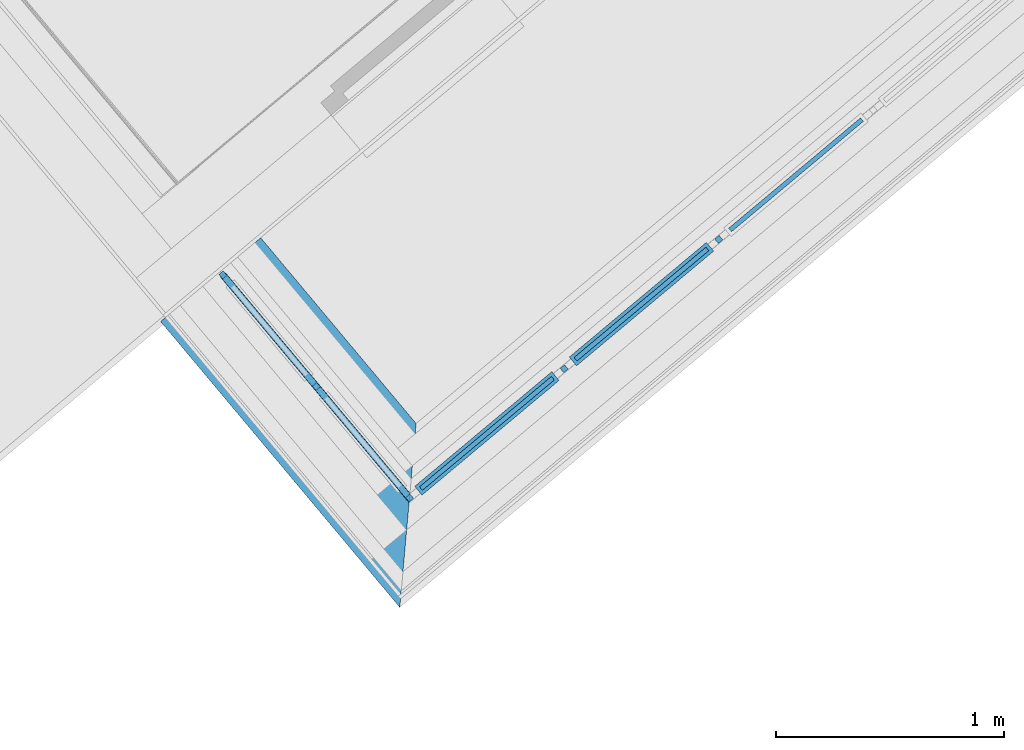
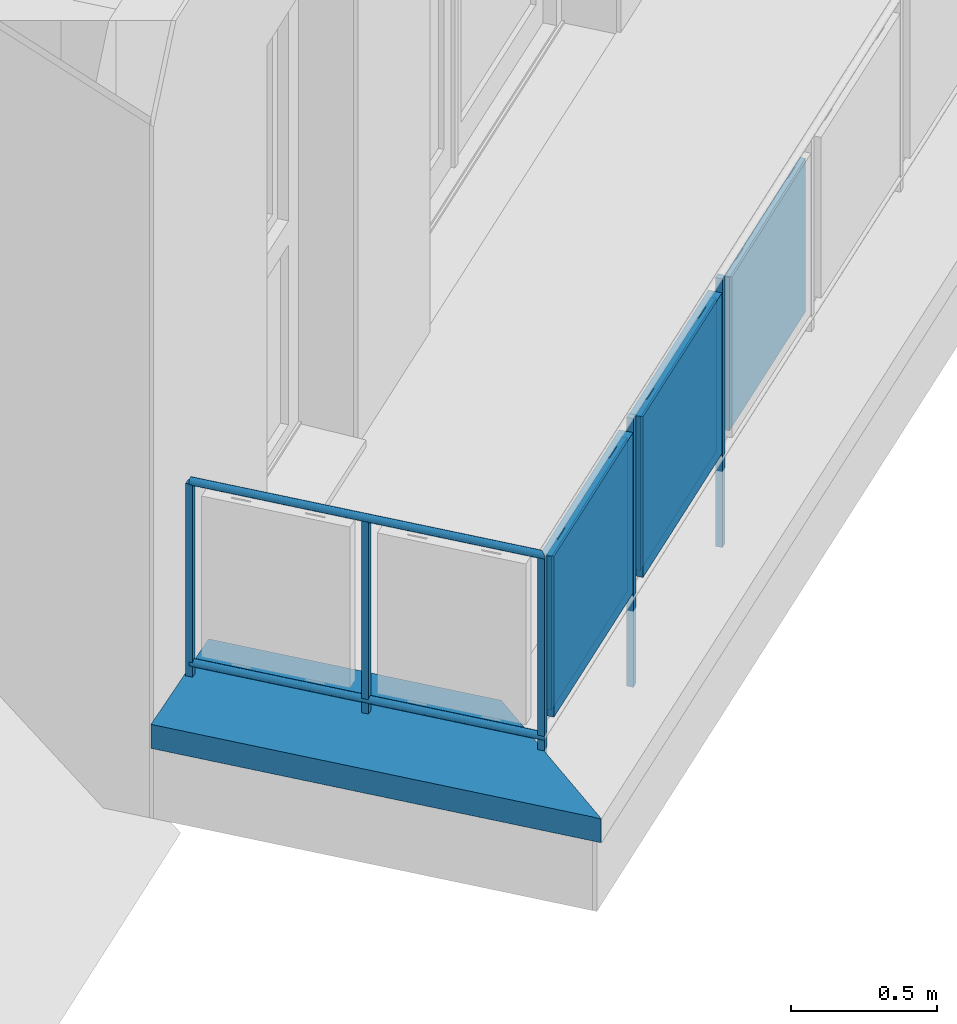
# One storey, part 30 of 47: 13 building element parts, 2 elements without a shape of their own.
"""IFC4 building model written with IfcOpenShell, lengths in metres."""

import ifcopenshell
import ifcopenshell.guid

model = None  # the IFC model being written
_history = None  # IfcOwnerHistory: only IFC2X3 demands one
_inside = {}  # id of a spatial element -> (the spatial element, [elements in it])
_under = {}  # id of a project, library or spatial element -> (it, [spatial elements below it])
_declared = {}  # id of a project -> (the project, [libraries it declares])
_typed = {}  # id of a type object -> (the type object, [elements of that type])
_made_of = {}  # id of a material, layer set ... -> (it, [elements and type objects made of it])


def new_model(schema):
    """Start an empty IFC model of exactly this schema.

    Asked for "IFC4X3", IfcOpenShell would pick the latest addendum, in which some entities
    have other attributes; the version numbers below select the first issue.
    IFC2X3 requires an IfcOwnerHistory on every rooted entity: one is made here for all.
    """
    global model, _history
    if schema == "IFC4X3":
        model = ifcopenshell.file(schema_version=(4, 3, 0, 0))
    else:
        model = ifcopenshell.file(schema=schema)
    _inside.clear()
    _under.clear()
    _declared.clear()
    _typed.clear()
    _made_of.clear()
    _history = None
    if model.schema == "IFC2X3":
        org = make("IfcOrganization", Name="unknown")
        user = make(
            "IfcPersonAndOrganization",
            ThePerson=make("IfcPerson", FamilyName="unknown"),
            TheOrganization=org,
        )
        app = make(
            "IfcApplication",
            ApplicationDeveloper=org,
            Version="unknown",
            ApplicationFullName="unknown",
            ApplicationIdentifier="unknown",
        )
        _history = make(
            "IfcOwnerHistory",
            OwningUser=user,
            OwningApplication=app,
            ChangeAction="ADDED",
            CreationDate=0,
        )
    return model


def make(cls, **values):
    """One entity of the class cls with the attributes given. An attribute that is None is left unset."""
    return model.create_entity(
        cls, **{name: value for name, value in values.items() if value is not None}
    )


def entity(cls, *values):
    """Any entity or typed value of the class cls, its attributes in the order of the schema. None: left unset."""
    e = model.create_entity(cls)
    for i, value in enumerate(values):
        if value is not None:
            e[i] = value
    return e


def rooted(cls, **values):
    """An entity with a GlobalId (a new one), such as an element, a storey or a relation."""
    return make(cls, GlobalId=ifcopenshell.guid.new(), OwnerHistory=_history, **values)


def si_unit(unit_type, name, prefix=None):
    """IfcSIUnit, for example si_unit("LENGTHUNIT", "METRE", prefix="MILLI")."""
    return make("IfcSIUnit", UnitType=unit_type, Prefix=prefix, Name=name)


def converted_unit(unit_type, name, factor, base, dimensions=None, offset=None):
    """IfcConversionBasedUnit, such as the inch: factor (a typed value) times the base unit."""
    return make(
        "IfcConversionBasedUnit"
        if offset is None
        else "IfcConversionBasedUnitWithOffset",
        ConversionOffset=offset,
        Dimensions=None
        if dimensions is None
        else entity("IfcDimensionalExponents", *dimensions),
        UnitType=unit_type,
        Name=name,
        ConversionFactor=make(
            "IfcMeasureWithUnit", ValueComponent=factor, UnitComponent=base
        ),
    )


def derived_unit(unit_type, elements):
    """IfcDerivedUnit: a product of units, each with its exponent."""
    return make(
        "IfcDerivedUnit",
        Elements=[
            make("IfcDerivedUnitElement", Unit=unit, Exponent=power)
            for unit, power in elements
        ],
        UnitType=unit_type,
    )


def assignment(units):
    """IfcUnitAssignment: the units of a project."""
    return None if units is None else make("IfcUnitAssignment", Units=units)


def point(xyz):
    """IfcCartesianPoint."""
    return None if xyz is None else make("IfcCartesianPoint", Coordinates=xyz)


def direction(xyz):
    """IfcDirection."""
    return None if xyz is None else make("IfcDirection", DirectionRatios=xyz)


def frame(location, z_axis=None, x_axis=None):
    """IfcAxis2Placement3D, a coordinate frame: its origin and axes. An axis left out is left unset."""
    return make(
        "IfcAxis2Placement3D",
        Location=point(location),
        Axis=direction(z_axis),
        RefDirection=direction(x_axis),
    )


def origin_with_axes():
    """The frame at (0, 0, 0) with the z axis (0, 0, 1) and the x axis (1, 0, 0) written out."""
    return frame((0.0, 0.0, 0.0), z_axis=(0.0, 0.0, 1.0), x_axis=(1.0, 0.0, 0.0))


def place(relative_to, where):
    """IfcLocalPlacement: puts the frame where relative to a parent placement (None: the world)."""
    return make(
        "IfcLocalPlacement", PlacementRelTo=relative_to, RelativePlacement=where
    )


def context(
    kind, dimensions, precision=None, world=None, true_north=None, identifier=None
):
    """IfcGeometricRepresentationContext, for example the 3D "Model" context."""
    return make(
        "IfcGeometricRepresentationContext",
        ContextIdentifier=identifier,
        ContextType=kind,
        CoordinateSpaceDimension=dimensions,
        Precision=precision,
        WorldCoordinateSystem=world,
        TrueNorth=true_north,
    )


def subcontext(parent, identifier, kind, view, scale=None):
    """IfcGeometricRepresentationSubContext, for example "Body" below "Model"."""
    return make(
        "IfcGeometricRepresentationSubContext",
        ContextIdentifier=identifier,
        ContextType=kind,
        ParentContext=parent,
        TargetScale=scale,
        TargetView=view,
    )


def project(units=None, contexts=None):
    """IfcProject with its units and contexts."""
    return rooted(
        "IfcProject",
        Name="project",
        RepresentationContexts=contexts,
        UnitsInContext=assignment(units),
    )


def spatial(cls, under=None, at=None, **own):
    """A site, building, storey or space (cls), placed at a placement, below another one or the project."""
    s = rooted(cls, ObjectPlacement=at, **own)
    if under is not None:
        _under.setdefault(under.id(), (under, []))[1].append(s)
    return s


def point_list(points):
    """IfcCartesianPointList2D or 3D."""
    cls = (
        "IfcCartesianPointList2D" if len(points[0]) == 2 else "IfcCartesianPointList3D"
    )
    return make(cls, CoordList=points)


def polygons(points, faces, closed=None, point_numbers=None):
    """IfcPolygonalFaceSet: a face is its outer loop, then its inner loops; points numbered from 1."""
    made = []
    for loops in faces:
        if len(loops) == 1:
            made.append(make("IfcIndexedPolygonalFace", CoordIndex=loops[0]))
        else:
            made.append(
                make(
                    "IfcIndexedPolygonalFaceWithVoids",
                    CoordIndex=loops[0],
                    InnerCoordIndices=loops[1:],
                )
            )
    return make(
        "IfcPolygonalFaceSet",
        Coordinates=point_list(points),
        Closed=closed,
        Faces=made,
        PnIndex=point_numbers,
    )


def shape(context_of_items, identifier, shape_type, items):
    """IfcShapeRepresentation: the items that make up one representation, for example the "Body"."""
    return make(
        "IfcShapeRepresentation",
        ContextOfItems=context_of_items,
        RepresentationIdentifier=identifier,
        RepresentationType=shape_type,
        Items=items,
    )


def material(Name=None, Category=None):
    """IfcMaterial."""
    return make("IfcMaterial", Name=Name, Category=Category)


def made_of(thing, what):
    """Note that an element or type object is made of a material, layer set ...; save() writes the relation."""
    if what is not None:
        _made_of.setdefault(what.id(), (what, []))[1].append(thing)
    return thing


def type_object(cls, material=None, **own):
    """A type object (cls), such as IfcWallType, which elements share."""
    return made_of(rooted(cls, **own), material)


def element(
    cls,
    number,
    at=None,
    inside=None,
    cuts=None,
    type_object=None,
    material=None,
    context=None,
    identifier="Body",
    shape_type=None,
    held_by="IfcProductDefinitionShape",
    body=None,
    shapes=None,
    **own,
):
    """One element of the class cls, such as IfcWall. Its Tag is "e" and its number.

    at: its placement. inside: the storey or other place that contains it. cuts: it is an
    opening in that element (IfcRelVoidsElement). A single representation is given by context,
    identifier, shape_type and body (its items); several are given by shapes. held_by: the class
    of the entity that holds the representations. save() writes the other relations.
    """
    e = rooted(cls, Tag="e%d" % number, ObjectPlacement=at, **own)
    if body is not None:
        shapes = [shape(context, identifier, shape_type, body)]
    if shapes is not None:
        e.Representation = make(held_by, Representations=shapes)
    if inside is not None:
        _inside.setdefault(inside.id(), (inside, []))[1].append(e)
    if cuts is not None:
        rooted(
            "IfcRelVoidsElement", RelatingBuildingElement=cuts, RelatedOpeningElement=e
        )
    if type_object is not None:
        _typed.setdefault(type_object.id(), (type_object, []))[1].append(e)
    return made_of(e, material)


def aggregate(whole, parts):
    """IfcRelAggregates: a whole, such as a stair, and the parts it consists of."""
    return rooted("IfcRelAggregates", RelatingObject=whole, RelatedObjects=parts)


def save(model, path):
    """Write the relations noted so far, then the file.

    IfcRelAggregates (storeys below a building ...), IfcRelContainedInSpatialStructure (elements
    in a storey), IfcRelDefinesByType, IfcRelAssociatesMaterial and IfcRelDeclares: one each for
    every whole, place, type object, material and project.
    """
    for whole, parts in _under.values():
        aggregate(whole, parts)
    for where, things in _inside.values():
        rooted(
            "IfcRelContainedInSpatialStructure",
            RelatedElements=things,
            RelatingStructure=where,
        )
    for kind, things in _typed.values():
        rooted("IfcRelDefinesByType", RelatedObjects=things, RelatingType=kind)
    for what, things in _made_of.values():
        rooted("IfcRelAssociatesMaterial", RelatedObjects=things, RelatingMaterial=what)
    for by, libraries in _declared.values():
        rooted("IfcRelDeclares", RelatingContext=by, RelatedDefinitions=libraries)
    model.write(path)


model = new_model("IFC4")

# Units and contexts
model_context = context("Model", 3, precision=1e-05, world=origin_with_axes(), true_north=direction((0.0, 1.0)))
body_context = subcontext(model_context, "Body", "Model", "MODEL_VIEW")
ifc_project = project(units=[si_unit("LENGTHUNIT", "METRE"), si_unit("AREAUNIT", "SQUARE_METRE"), si_unit("VOLUMEUNIT", "CUBIC_METRE"), converted_unit("PLANEANGLEUNIT", "DEGREE", entity("IfcPlaneAngleMeasure", 0.0174532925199), si_unit("PLANEANGLEUNIT", "RADIAN"), dimensions=[0, 0, 0, 0, 0, 0, 0]), converted_unit("TIMEUNIT", "Year", entity("IfcTimeMeasure", 31556926.0), si_unit("TIMEUNIT", "SECOND"), dimensions=[0, 0, 1, 0, 0, 0, 0]), si_unit("MASSUNIT", "GRAM", prefix="KILO"), si_unit("THERMODYNAMICTEMPERATUREUNIT", "DEGREE_CELSIUS"), si_unit("LUMINOUSINTENSITYUNIT", "LUMEN"), si_unit("ENERGYUNIT", "JOULE", prefix="MEGA"), derived_unit("THERMALCONDUCTANCEUNIT", [(si_unit("POWERUNIT", "WATT"), 1), (si_unit("LENGTHUNIT", "METRE"), -1), (si_unit("THERMODYNAMICTEMPERATUREUNIT", "KELVIN"), -1)]), derived_unit("SPECIFICHEATCAPACITYUNIT", [(si_unit("ENERGYUNIT", "JOULE"), 1), (si_unit("MASSUNIT", "GRAM", prefix="KILO"), -1), (si_unit("THERMODYNAMICTEMPERATUREUNIT", "KELVIN"), -1)]), derived_unit("MASSDENSITYUNIT", [(si_unit("MASSUNIT", "GRAM", prefix="KILO"), 1), (si_unit("VOLUMEUNIT", "CUBIC_METRE"), -1)])], contexts=[model_context])

# Site, building, storey
site_placement = place(None, frame((-0.00153261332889, -0.00661245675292, 0.0), z_axis=(0.0, 0.0, 1.0), x_axis=(1.0, 0.0, 0.0)))
site = spatial("IfcSite", under=ifc_project, at=site_placement, Name="Site", CompositionType="ELEMENT")
building_placement = place(site_placement, origin_with_axes())
building = spatial("IfcBuilding", under=site, at=building_placement, Name="Building", CompositionType="ELEMENT")
storey_placement = place(building_placement, frame((0.0, 0.0, 8.66), z_axis=(0.0, 0.0, 1.0), x_axis=(1.0, 0.0, 0.0)))
storey = spatial("IfcBuildingStorey", under=building, at=storey_placement, Name="DG2", CompositionType="ELEMENT", Elevation=8.66)

# Wall, building element part
wall_type = type_object("IfcWallType", Name="Bauteil - Attika Terrasse 1.DG 574 x 410", PredefinedType="NOTDEFINED")
wall_placement = place(storey_placement, frame((8.86706086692, 16.7682826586, -0.2), z_axis=(0.0, 0.0, 1.0), x_axis=(-0.641709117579, 0.766948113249, 0.0)))
wall = element("IfcWall", 1, at=wall_placement, inside=storey, type_object=wall_type, Name="Wand-004", PredefinedType="NOTDEFINED")
ifc_material_1 = material(Name="Stahl")
building_element_part_1_placement = place(wall_placement, origin_with_axes())
building_element_part_1 = element("IfcBuildingElementPart", 2, at=building_element_part_1_placement, material=ifc_material_1, Name="Stahl", PredefinedType="NOTDEFINED", context=body_context, shape_type="Tessellation", body=[
    polygons([(-0.240150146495, 0.241500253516, 0.567947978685), (-0.240149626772, 0.241500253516, 0.559999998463), (-0.240149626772, 0.240149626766, 0.559999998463), (-0.240150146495, 0.240150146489, 0.567947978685), (-0.239585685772, 0.241500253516, 0.510007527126), (-0.23823188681, 0.241500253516, 0.511361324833), (-0.240146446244, 0.241500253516, 0.511361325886), (-0.240146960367, 0.241500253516, 0.519224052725), (-0.240150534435, 0.241500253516, 0.573880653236), (-0.240150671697, 0.241500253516, 0.575979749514), (-0.240151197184, 0.241500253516, 0.584015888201), (-0.240151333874, 0.241500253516, 0.586106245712), (-0.240151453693, 0.241500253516, 0.587938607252), (-0.240152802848, 0.241500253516, 0.608570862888), (-0.240152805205, 0.241500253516, 0.608602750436), (-0.202730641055, 0.241500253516, 0.608602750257), (-0.241500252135, 0.241500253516, 0.610006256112), (1.39632208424, 0.241500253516, 0.610006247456), (1.39632208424, 0.241500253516, 0.510007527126), (-0.240146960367, 0.240146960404, 0.519224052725), (-0.23823188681, 0.240146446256, 0.511361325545), (1.39632208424, 0.240146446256, 0.51136132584), (1.39632208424, 0.240152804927, 0.608602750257), (-0.202730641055, 0.240152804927, 0.608602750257), (-0.240152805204, 0.240152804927, 0.608602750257), (-0.240152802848, 0.240152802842, 0.608570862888), (-0.240151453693, 0.240151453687, 0.587938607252), (-0.240151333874, 0.240151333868, 0.586106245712), (-0.240151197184, 0.240151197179, 0.584015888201), (-0.240150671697, 0.240150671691, 0.575979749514), (-0.240150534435, 0.24015053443, 0.573880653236), (-0.240146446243, 0.240146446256, 0.51136132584), (-0.240542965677, 0.240542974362, 0.50905023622), (-0.23823188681, 0.238231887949, 0.51136132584), (-0.202730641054, 0.202730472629, 0.608602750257), (-0.201849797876, 0.201849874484, 0.608570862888), (0.332051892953, -0.332051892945, 0.589243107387), (1.39632208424, -0.332051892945, 0.589243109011), (1.39632208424, 0.240542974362, 0.509050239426), (1.39632208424, -0.332051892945, 0.489652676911), (1.39632208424, -0.331094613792, 0.488695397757), (1.39632208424, -0.321878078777, 0.497911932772), (1.39632208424, -0.32288233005, 0.498822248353), (1.39632208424, -0.330698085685, 0.491006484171), (1.39632208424, -0.330698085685, 0.587937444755), (1.39632208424, 0.239276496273, 0.608570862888), (1.39632208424, 0.232283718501, 0.519224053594), (1.39632208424, 0.231373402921, 0.518219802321), (-0.231373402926, 0.233287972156, 0.518219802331), (-0.232283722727, 0.232283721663, 0.519224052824), (-0.201849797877, 0.239276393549, 0.608570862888), (-0.231373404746, 0.231373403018, 0.518219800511), (0.332051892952, -0.294630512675, 0.589243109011), (0.332051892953, -0.332051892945, 0.587938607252), (0.332051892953, -0.332051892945, 0.586106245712), (0.332051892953, -0.332051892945, 0.584015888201), (0.332051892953, -0.332051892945, 0.575979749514), (0.332051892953, -0.332051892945, 0.573880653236), (0.332051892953, -0.332051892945, 0.567947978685), (0.332051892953, -0.332051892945, 0.559999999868), (0.332051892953, -0.332051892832, 0.519224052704), (0.332051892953, -0.332051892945, 0.511361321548), (0.332051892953, -0.332051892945, 0.50905024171), (0.332051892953, -0.332051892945, 0.499999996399), (0.332051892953, -0.332051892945, 0.498822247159), (0.332051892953, -0.332051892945, 0.49100648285), (0.332051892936, -0.332051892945, 0.489652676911), (0.331094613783, -0.331094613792, 0.488695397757), (0.332051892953, -0.330137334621, 0.489652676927), (0.332051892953, -0.328783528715, 0.491006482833), (0.330698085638, -0.328783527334, 0.491006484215), (0.323792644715, -0.321878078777, 0.497911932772), (0.322882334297, -0.32288233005, 0.498822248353), (0.330698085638, -0.330698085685, 0.491006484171), (0.332051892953, -0.330698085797, 0.49100648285), (0.332051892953, -0.330698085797, 0.498822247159), (0.332051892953, -0.330698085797, 0.499999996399), (0.332051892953, -0.330698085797, 0.50905024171), (0.332051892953, -0.330698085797, 0.511361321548), (0.332051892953, -0.330698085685, 0.519224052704), (0.332051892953, -0.330698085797, 0.559999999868), (0.332051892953, -0.330698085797, 0.567947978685), (0.332051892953, -0.330698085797, 0.573880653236), (0.332051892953, -0.330698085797, 0.575979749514), (0.332051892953, -0.330698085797, 0.584015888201), (0.332051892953, -0.330698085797, 0.586106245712), (0.332051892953, -0.330698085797, 0.587937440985), (0.332051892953, -0.330665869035, 0.587938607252)], [[[1, 2, 3, 4]], [[5, 6, 7, 8, 2, 1, 9, 10, 11, 12, 13, 14, 15, 16, 17, 18, 19]], [[2, 8, 20, 3]], [[21, 22, 23, 24, 25, 26, 27, 28, 29, 30, 31, 4, 3, 20, 32]], [[9, 1, 4, 31]], [[6, 5, 33, 34, 21]], [[7, 6, 21, 32]], [[8, 7, 32, 20]], [[10, 9, 31, 30]], [[11, 10, 30, 29]], [[12, 11, 29, 28]], [[13, 12, 28, 27]], [[14, 13, 27, 26]], [[14, 26, 25, 15]], [[16, 15, 25, 24]], [[17, 16, 24, 35]], [[18, 17, 35, 36, 37, 38]], [[39, 19, 18, 38, 40, 41, 42, 43, 44, 45, 46, 23, 22, 47, 48]], [[33, 5, 19, 39]], [[21, 49, 50, 47, 22]], [[23, 46, 51, 24]], [[33, 39, 48, 52, 34]], [[49, 21, 34, 52]], [[24, 51, 36, 35]], [[36, 51, 53, 37]], [[40, 38, 37, 54, 55, 56, 57, 58, 59, 60, 61, 62, 63, 64, 65, 66, 67]], [[41, 40, 67, 68]], [[42, 41, 68, 69, 70, 71, 72]], [[43, 42, 72, 73]], [[44, 43, 73, 74, 75]], [[45, 44, 75, 76, 77, 78, 79, 80, 81, 82, 83, 84, 85, 86, 87]], [[51, 46, 45, 87, 88, 53]], [[48, 47, 50, 52]], [[50, 49, 52]], [[53, 88, 87, 54, 37]], [[87, 86, 55, 54]], [[86, 85, 56, 55]], [[85, 84, 57, 56]], [[84, 83, 58, 57]], [[83, 82, 59, 58]], [[82, 81, 60, 59]], [[60, 81, 80, 61]], [[79, 62, 61, 80]], [[79, 78, 63, 62]], [[78, 77, 64, 63]], [[77, 76, 65, 64]], [[76, 75, 66, 65]], [[70, 69, 67, 66, 75]], [[69, 68, 67]], [[71, 70, 75, 74]], [[72, 71, 74, 73]]], closed=True),
])
aggregate(wall, [building_element_part_1])

# Railing, building element parts
railing_type = type_object("IfcRailingType", Name="Geländerart", PredefinedType="NOTDEFINED")
railing_placement = place(storey_placement, frame((8.09801261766, 17.9211539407, 0.38), z_axis=(0.0, 0.0, 1.0), x_axis=(1.0, 0.0, 0.0)))
railing = element("IfcRailing", 3, at=railing_placement, inside=storey, type_object=railing_type, Name="Geländer - 001", PredefinedType="NOTDEFINED")
ifc_material_2 = material(Name="Aluminium")
building_element_part_2_placement = place(railing_placement, origin_with_axes())
building_element_part_2 = element("IfcBuildingElementPart", 4, at=building_element_part_2_placement, material=ifc_material_2, Name="Aluminium", PredefinedType="NOTDEFINED", context=body_context, shape_type="Tessellation", body=[
    polygons([(-0.0399128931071, -0.0496936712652, -0.3), (-0.0207391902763, -0.0336509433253, -0.3), (-0.0207391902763, -0.0336509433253, 0.82), (-0.0399128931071, -0.0496936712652, 0.82), (-0.0559556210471, -0.0305199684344, -0.3), (-0.0367819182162, -0.0144772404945, -0.3), (-0.0367819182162, -0.0144772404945, 0.82), (-0.0559556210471, -0.0305199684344, 0.82)], [[[1, 2, 3, 4]], [[1, 5, 6, 2]], [[2, 6, 7, 3]], [[4, 3, 7, 8]], [[5, 1, 4, 8]], [[6, 5, 8, 7]]], closed=True),
])
building_element_part_3_placement = place(railing_placement, origin_with_axes())
building_element_part_3 = element("IfcBuildingElementPart", 5, at=building_element_part_3_placement, material=ifc_material_2, Name="Aluminium", PredefinedType="NOTDEFINED", context=body_context, shape_type="Tessellation", body=[
    polygons([(0.780491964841, -1.03021263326, -0.3), (0.799665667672, -1.01416990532, -0.3), (0.799665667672, -1.01416990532, 0.82), (0.780491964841, -1.03021263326, 0.82), (0.764449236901, -1.01103893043, -0.3), (0.783622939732, -0.994996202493, -0.3), (0.783622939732, -0.994996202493, 0.82), (0.764449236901, -1.01103893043, 0.82)], [[[1, 2, 3, 4]], [[1, 5, 6, 2]], [[2, 6, 7, 3]], [[4, 3, 7, 8]], [[5, 1, 4, 8]], [[6, 5, 8, 7]]], closed=True),
])
building_element_part_4_placement = place(railing_placement, origin_with_axes())
building_element_part_4 = element("IfcBuildingElementPart", 6, at=building_element_part_4_placement, material=ifc_material_2, Name="Aluminium", PredefinedType="NOTDEFINED", context=body_context, shape_type="Tessellation", body=[
    polygons([(-0.0268431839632, -0.0224598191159, 0.825), (-0.0270179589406, -0.022606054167, 0.827604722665), (0.783908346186, -0.991796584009, 0.827604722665), (0.783936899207, -0.991475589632, 0.825), (-0.0270179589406, -0.022606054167, 0.822395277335), (-0.0275369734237, -0.0230403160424, 0.81986969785), (-0.02838445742, -0.0237494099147, 0.8175), (-0.0295346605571, -0.0247117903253, 0.815358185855), (-0.0309526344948, -0.0258982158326, 0.813509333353), (-0.0325952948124, -0.0272726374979, 0.812009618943), (-0.0344127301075, -0.0287932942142, 0.810904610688), (-0.0363497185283, -0.0304139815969, 0.810227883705), (-0.0383474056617, -0.0320854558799, 0.81), (-0.0403450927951, -0.0337569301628, 0.810227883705), (-0.0422820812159, -0.0353776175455, 0.810904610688), (-0.0440995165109, -0.0368982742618, 0.812009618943), (-0.0457421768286, -0.0382726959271, 0.813509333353), (-0.0471601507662, -0.0394591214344, 0.815358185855), (-0.0483103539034, -0.040421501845, 0.8175), (-0.0491578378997, -0.0411305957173, 0.81986969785), (-0.0496768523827, -0.0415648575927, 0.822395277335), (-0.0498516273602, -0.0417110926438, 0.825), (-0.0496768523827, -0.0415648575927, 0.827604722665), (-0.0491578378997, -0.0411305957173, 0.83013030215), (-0.0483103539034, -0.040421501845, 0.8325), (-0.0471601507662, -0.0394591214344, 0.834641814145), (-0.0457421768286, -0.0382726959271, 0.836490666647), (-0.0440995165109, -0.0368982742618, 0.837990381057), (-0.0422820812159, -0.0353776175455, 0.839095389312), (-0.0403450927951, -0.0337569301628, 0.839772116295), (-0.0383474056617, -0.0320854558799, 0.84), (-0.0363497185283, -0.0304139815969, 0.839772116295), (-0.0344127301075, -0.0287932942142, 0.839095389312), (-0.0325952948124, -0.0272726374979, 0.837990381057), (-0.0309526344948, -0.0258982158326, 0.836490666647), (-0.0295346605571, -0.0247117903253, 0.834641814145), (-0.02838445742, -0.0237494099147, 0.8325), (-0.0275369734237, -0.0230403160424, 0.83013030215), (0.783823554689, -0.992749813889, 0.83013030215), (0.783685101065, -0.994306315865, 0.8325), (0.783497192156, -0.99641879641, 0.834641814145), (0.78326553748, -0.999023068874, 0.836490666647), (0.782997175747, -1.00204000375, 0.837990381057), (0.782700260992, -1.00537793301, 0.839095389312), (0.782383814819, -1.00893543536, 0.839772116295), (0.782057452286, -1.01260441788, 0.84), (0.781731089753, -1.0162734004, 0.839772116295), (0.781414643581, -1.01983090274, 0.839095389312), (0.781117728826, -1.023168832, 0.837990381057), (0.780849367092, -1.02618576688, 0.836490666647), (0.780617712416, -1.02879003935, 0.834641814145), (0.780429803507, -1.03090251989, 0.8325), (0.780291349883, -1.03245902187, 0.83013030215), (0.780206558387, -1.03341225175, 0.827604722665), (0.780178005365, -1.03373324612, 0.825), (0.780206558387, -1.03341225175, 0.822395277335), (0.780291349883, -1.03245902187, 0.81986969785), (0.780429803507, -1.03090251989, 0.8175), (0.780617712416, -1.02879003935, 0.815358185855), (0.780849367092, -1.02618576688, 0.813509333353), (0.781117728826, -1.023168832, 0.812009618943), (0.781414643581, -1.01983090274, 0.810904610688), (0.781731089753, -1.0162734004, 0.810227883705), (0.782057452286, -1.01260441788, 0.81), (0.782383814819, -1.00893543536, 0.810227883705), (0.782700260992, -1.00537793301, 0.810904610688), (0.782997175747, -1.00204000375, 0.812009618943), (0.78326553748, -0.999023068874, 0.813509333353), (0.783497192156, -0.99641879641, 0.815358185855), (0.783685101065, -0.994306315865, 0.8175), (0.783823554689, -0.992749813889, 0.81986969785), (0.783908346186, -0.991796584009, 0.822395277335)], [[[1, 2, 3, 4]], [[1, 5, 6, 7, 8, 9, 10, 11, 12, 13, 14, 15, 16, 17, 18, 19, 20, 21, 22, 23, 24, 25, 26, 27, 28, 29, 30, 31, 32, 33, 34, 35, 36, 37, 38, 2]], [[2, 38, 39, 3]], [[4, 3, 39, 40, 41, 42, 43, 44, 45, 46, 47, 48, 49, 50, 51, 52, 53, 54, 55, 56, 57, 58, 59, 60, 61, 62, 63, 64, 65, 66, 67, 68, 69, 70, 71, 72]], [[5, 1, 4, 72]], [[6, 5, 72, 71]], [[7, 6, 71, 70]], [[8, 7, 70, 69]], [[9, 8, 69, 68]], [[10, 9, 68, 67]], [[11, 10, 67, 66]], [[12, 11, 66, 65]], [[13, 12, 65, 64]], [[14, 13, 64, 63]], [[15, 14, 63, 62]], [[16, 15, 62, 61]], [[17, 16, 61, 60]], [[18, 17, 60, 59]], [[19, 18, 59, 58]], [[20, 19, 58, 57]], [[21, 20, 57, 56]], [[22, 21, 56, 55]], [[23, 22, 55, 54]], [[24, 23, 54, 53]], [[25, 24, 53, 52]], [[26, 25, 52, 51]], [[27, 26, 51, 50]], [[28, 27, 50, 49]], [[29, 28, 49, 48]], [[30, 29, 48, 47]], [[31, 30, 47, 46]], [[32, 31, 46, 45]], [[33, 32, 45, 44]], [[34, 33, 44, 43]], [[35, 34, 43, 42]], [[36, 35, 42, 41]], [[37, 36, 41, 40]], [[38, 37, 40, 39]]], closed=True),
])
building_element_part_5_placement = place(railing_placement, origin_with_axes())
building_element_part_5 = element("IfcBuildingElementPart", 7, at=building_element_part_5_placement, material=ifc_material_2, Name="Aluminium", PredefinedType="NOTDEFINED", context=body_context, shape_type="Tessellation", body=[
    polygons([(-0.0268431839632, -0.0224598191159, 0.07), (-0.0270179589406, -0.022606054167, 0.072604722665), (0.783908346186, -0.991796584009, 0.072604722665), (0.783936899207, -0.991475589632, 0.07), (-0.0270179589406, -0.022606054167, 0.067395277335), (-0.0275369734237, -0.0230403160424, 0.0648696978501), (-0.02838445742, -0.0237494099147, 0.0625), (-0.0295346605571, -0.0247117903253, 0.0603581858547), (-0.0309526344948, -0.0258982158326, 0.0585093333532), (-0.0325952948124, -0.0272726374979, 0.0570096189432), (-0.0344127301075, -0.0287932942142, 0.0559046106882), (-0.0363497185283, -0.0304139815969, 0.0552278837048), (-0.0383474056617, -0.0320854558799, 0.055), (-0.0403450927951, -0.0337569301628, 0.0552278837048), (-0.0422820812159, -0.0353776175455, 0.0559046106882), (-0.0440995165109, -0.0368982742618, 0.0570096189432), (-0.0457421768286, -0.0382726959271, 0.0585093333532), (-0.0471601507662, -0.0394591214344, 0.0603581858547), (-0.0483103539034, -0.040421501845, 0.0625), (-0.0491578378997, -0.0411305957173, 0.0648696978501), (-0.0496768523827, -0.0415648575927, 0.067395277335), (-0.0498516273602, -0.0417110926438, 0.07), (-0.0496768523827, -0.0415648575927, 0.072604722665), (-0.0491578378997, -0.0411305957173, 0.0751303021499), (-0.0483103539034, -0.040421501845, 0.0775), (-0.0471601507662, -0.0394591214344, 0.0796418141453), (-0.0457421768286, -0.0382726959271, 0.0814906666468), (-0.0440995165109, -0.0368982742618, 0.0829903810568), (-0.0422820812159, -0.0353776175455, 0.0840953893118), (-0.0403450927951, -0.0337569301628, 0.0847721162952), (-0.0383474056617, -0.0320854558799, 0.085), (-0.0363497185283, -0.0304139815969, 0.0847721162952), (-0.0344127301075, -0.0287932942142, 0.0840953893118), (-0.0325952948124, -0.0272726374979, 0.0829903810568), (-0.0309526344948, -0.0258982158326, 0.0814906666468), (-0.0295346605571, -0.0247117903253, 0.0796418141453), (-0.02838445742, -0.0237494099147, 0.0775), (-0.0275369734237, -0.0230403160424, 0.0751303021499), (0.783823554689, -0.992749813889, 0.0751303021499), (0.783685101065, -0.994306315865, 0.0775), (0.783497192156, -0.99641879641, 0.0796418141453), (0.78326553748, -0.999023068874, 0.0814906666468), (0.782997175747, -1.00204000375, 0.0829903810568), (0.782700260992, -1.00537793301, 0.0840953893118), (0.782383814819, -1.00893543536, 0.0847721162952), (0.782057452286, -1.01260441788, 0.085), (0.781731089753, -1.0162734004, 0.0847721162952), (0.781414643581, -1.01983090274, 0.0840953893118), (0.781117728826, -1.023168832, 0.0829903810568), (0.780849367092, -1.02618576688, 0.0814906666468), (0.780617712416, -1.02879003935, 0.0796418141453), (0.780429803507, -1.03090251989, 0.0775), (0.780291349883, -1.03245902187, 0.0751303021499), (0.780206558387, -1.03341225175, 0.072604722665), (0.780178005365, -1.03373324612, 0.07), (0.780206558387, -1.03341225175, 0.067395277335), (0.780291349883, -1.03245902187, 0.0648696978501), (0.780429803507, -1.03090251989, 0.0625), (0.780617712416, -1.02879003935, 0.0603581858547), (0.780849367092, -1.02618576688, 0.0585093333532), (0.781117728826, -1.023168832, 0.0570096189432), (0.781414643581, -1.01983090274, 0.0559046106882), (0.781731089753, -1.0162734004, 0.0552278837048), (0.782057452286, -1.01260441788, 0.055), (0.782383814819, -1.00893543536, 0.0552278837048), (0.782700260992, -1.00537793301, 0.0559046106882), (0.782997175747, -1.00204000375, 0.0570096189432), (0.78326553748, -0.999023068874, 0.0585093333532), (0.783497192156, -0.99641879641, 0.0603581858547), (0.783685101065, -0.994306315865, 0.0625), (0.783823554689, -0.992749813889, 0.0648696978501), (0.783908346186, -0.991796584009, 0.067395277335)], [[[1, 2, 3, 4]], [[1, 5, 6, 7, 8, 9, 10, 11, 12, 13, 14, 15, 16, 17, 18, 19, 20, 21, 22, 23, 24, 25, 26, 27, 28, 29, 30, 31, 32, 33, 34, 35, 36, 37, 38, 2]], [[2, 38, 39, 3]], [[4, 3, 39, 40, 41, 42, 43, 44, 45, 46, 47, 48, 49, 50, 51, 52, 53, 54, 55, 56, 57, 58, 59, 60, 61, 62, 63, 64, 65, 66, 67, 68, 69, 70, 71, 72]], [[5, 1, 4, 72]], [[6, 5, 72, 71]], [[7, 6, 71, 70]], [[8, 7, 70, 69]], [[9, 8, 69, 68]], [[10, 9, 68, 67]], [[11, 10, 67, 66]], [[12, 11, 66, 65]], [[13, 12, 65, 64]], [[14, 13, 64, 63]], [[15, 14, 63, 62]], [[16, 15, 62, 61]], [[17, 16, 61, 60]], [[18, 17, 60, 59]], [[19, 18, 59, 58]], [[20, 19, 58, 57]], [[21, 20, 57, 56]], [[22, 21, 56, 55]], [[23, 22, 55, 54]], [[24, 23, 54, 53]], [[25, 24, 53, 52]], [[26, 25, 52, 51]], [[27, 26, 51, 50]], [[28, 27, 50, 49]], [[29, 28, 49, 48]], [[30, 29, 48, 47]], [[31, 30, 47, 46]], [[32, 31, 46, 45]], [[33, 32, 45, 44]], [[34, 33, 44, 43]], [[35, 34, 43, 42]], [[36, 35, 42, 41]], [[37, 36, 41, 40]], [[38, 37, 40, 39]]], closed=True),
])
building_element_part_6_placement = place(railing_placement, origin_with_axes())
building_element_part_6 = element("IfcBuildingElementPart", 8, at=building_element_part_6_placement, material=ifc_material_2, Name="Aluminium", PredefinedType="NOTDEFINED", context=body_context, shape_type="Tessellation", body=[
    polygons([(0.370289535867, -0.539953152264, -0.3), (0.389463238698, -0.523910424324, -0.3), (0.389463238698, -0.523910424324, 0.82), (0.370289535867, -0.539953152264, 0.82), (0.354246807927, -0.520779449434, -0.3), (0.373420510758, -0.504736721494, -0.3), (0.373420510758, -0.504736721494, 0.82), (0.354246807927, -0.520779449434, 0.82)], [[[1, 2, 3, 4]], [[1, 5, 6, 2]], [[2, 6, 7, 3]], [[4, 3, 7, 8]], [[5, 1, 4, 8]], [[6, 5, 8, 7]]], closed=True),
])
ifc_material_3 = material(Name="Profilit")
building_element_part_7_placement = place(railing_placement, origin_with_axes())
building_element_part_7 = element("IfcBuildingElementPart", 9, at=building_element_part_7_placement, material=ifc_material_3, Name="Profilit", PredefinedType="NOTDEFINED", context=body_context, shape_type="Tessellation", body=[
    polygons([(1.40482811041, -0.478586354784, 0.135), (0.82549641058, -0.963227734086, 0.135), (0.82549641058, -0.963227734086, 0.775), (1.40482811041, -0.478586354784, 0.775), (0.838329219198, -0.978567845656, 0.135), (1.41766091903, -0.493926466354, 0.135), (0.838329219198, -0.978567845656, 0.775), (1.41766091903, -0.493926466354, 0.775)], [[[1, 2, 3, 4]], [[5, 2, 1, 6]], [[7, 3, 2, 5]], [[4, 3, 7, 8]], [[1, 4, 8, 6]], [[7, 5, 6, 8]]], closed=True),
])
building_element_part_8_placement = place(railing_placement, origin_with_axes())
building_element_part_8 = element("IfcBuildingElementPart", 10, at=building_element_part_8_placement, material=ifc_material_2, Name="Aluminium", PredefinedType="NOTDEFINED", context=body_context, shape_type="Tessellation", body=[
    polygons([(0.895504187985, -0.9144408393, 0.12), (0.949194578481, -0.869526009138, 0.12), (0.949194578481, -0.869526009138, 0.095), (0.895504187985, -0.9144408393, 0.095), (0.89871239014, -0.918275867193, 0.12), (0.952402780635, -0.873361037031, 0.12), (0.952402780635, -0.873361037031, 0.095), (0.89871239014, -0.918275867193, 0.095)], [[[1, 2, 3, 4]], [[5, 6, 2, 1]], [[2, 6, 7, 3]], [[4, 3, 7, 8]], [[1, 4, 8, 5]], [[8, 7, 6, 5]]], closed=True),
    polygons([(1.29075454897, -0.583793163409, 0.12), (1.34444493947, -0.538878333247, 0.12), (1.34444493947, -0.538878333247, 0.095), (1.29075454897, -0.583793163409, 0.095), (1.29396275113, -0.587628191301, 0.12), (1.34765314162, -0.54271336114, 0.12), (1.34765314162, -0.54271336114, 0.095), (1.29396275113, -0.587628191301, 0.095)], [[[1, 2, 3, 4]], [[5, 6, 2, 1]], [[2, 6, 7, 3]], [[4, 3, 7, 8]], [[1, 4, 8, 5]], [[8, 7, 6, 5]]], closed=True),
    polygons([(1.34444493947, -0.538878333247, 0.79), (1.29075454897, -0.583793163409, 0.79), (1.29075454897, -0.583793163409, 0.795), (1.34444493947, -0.538878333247, 0.795), (1.34765314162, -0.54271336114, 0.79), (1.29396275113, -0.587628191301, 0.79), (1.29396275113, -0.587628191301, 0.795), (1.34765314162, -0.54271336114, 0.795)], [[[1, 2, 3, 4]], [[5, 6, 2, 1]], [[2, 6, 7, 3]], [[4, 3, 7, 8]], [[1, 4, 8, 5]], [[8, 7, 6, 5]]], closed=True),
    polygons([(0.949194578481, -0.869526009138, 0.79), (0.895504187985, -0.9144408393, 0.79), (0.895504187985, -0.9144408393, 0.795), (0.949194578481, -0.869526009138, 0.795), (0.952402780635, -0.873361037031, 0.79), (0.89871239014, -0.918275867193, 0.79), (0.89871239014, -0.918275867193, 0.795), (0.952402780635, -0.873361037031, 0.795)], [[[1, 2, 3, 4]], [[5, 6, 2, 1]], [[2, 6, 7, 3]], [[4, 3, 7, 8]], [[1, 4, 8, 5]], [[8, 7, 6, 5]]], closed=True),
    polygons([(0.836448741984, -0.999697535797, 0.12), (0.80436672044, -0.961347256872, 0.12), (1.40670858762, -0.457456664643, 0.12), (1.43879060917, -0.495806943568, 0.12), (0.851788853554, -0.986864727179, 0.14), (0.842164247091, -0.975359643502, 0.14), (0.838329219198, -0.978567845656, 0.135), (0.82549641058, -0.963227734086, 0.135), (0.829331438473, -0.960019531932, 0.14), (0.81970683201, -0.948514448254, 0.14), (1.39136847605, -0.470289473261, 0.14), (1.39136847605, -0.470289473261, 0.77), (0.81970683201, -0.948514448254, 0.77), (0.81970683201, -0.948514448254, 0.14), (0.80436672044, -0.961347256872, 0.12), (0.80436672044, -0.961347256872, 0.79), (1.40670858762, -0.457456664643, 0.79), (1.43879060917, -0.495806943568, 0.79), (0.836448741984, -0.999697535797, 0.79), (0.836448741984, -0.999697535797, 0.12), (0.851788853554, -0.986864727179, 0.14), (0.851788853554, -0.986864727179, 0.77), (1.4234504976, -0.508639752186, 0.77), (1.4234504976, -0.508639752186, 0.14), (1.41382589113, -0.497134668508, 0.14), (1.41382589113, -0.497134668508, 0.77), (0.842164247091, -0.975359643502, 0.77), (0.842164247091, -0.975359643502, 0.14), (0.838329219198, -0.978567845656, 0.135), (0.838329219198, -0.978567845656, 0.775), (1.41766091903, -0.493926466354, 0.775), (1.41766091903, -0.493926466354, 0.135), (1.40482811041, -0.478586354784, 0.135), (1.40482811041, -0.478586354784, 0.775), (0.82549641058, -0.963227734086, 0.775), (0.82549641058, -0.963227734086, 0.135), (0.829331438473, -0.960019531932, 0.14), (0.829331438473, -0.960019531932, 0.77), (1.40099308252, -0.481794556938, 0.77), (1.40099308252, -0.481794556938, 0.14)], [[[1, 2, 3, 4]], [[1, 5, 6, 7, 8, 9, 10, 2]], [[2, 10, 11, 12, 13, 14, 15, 16, 17, 3]], [[4, 3, 17, 18]], [[5, 1, 4, 18, 19, 20, 21, 22, 23, 24]], [[6, 5, 24, 25]], [[7, 6, 25, 26, 27, 28, 29, 30, 31, 32]], [[8, 7, 32, 33]], [[9, 8, 33, 34, 35, 36, 37, 38, 39, 40]], [[10, 9, 40, 11]], [[11, 40, 39, 12]], [[12, 39, 38, 13]], [[13, 38, 37, 14]], [[20, 15, 14, 37, 36, 29, 28, 21]], [[19, 16, 15, 20]], [[18, 17, 16, 19]], [[27, 22, 21, 28]], [[26, 23, 22, 27]], [[25, 24, 23, 26]], [[35, 30, 29, 36]], [[34, 31, 30, 35]], [[33, 32, 31, 34]]], closed=True),
])
building_element_part_9_placement = place(railing_placement, origin_with_axes())
building_element_part_9 = element("IfcBuildingElementPart", 11, at=building_element_part_9_placement, material=ifc_material_2, Name="Aluminium", PredefinedType="NOTDEFINED", context=body_context, shape_type="Tessellation", body=[
    polygons([(1.47870795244, -0.446116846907, -0.3), (1.46266694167, -0.426941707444, -0.3), (1.46266694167, -0.426941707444, 0.82), (1.47870795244, -0.446116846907, 0.82), (1.45953281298, -0.462157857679, -0.3), (1.4434918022, -0.442982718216, -0.3), (1.4434918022, -0.442982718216, 0.82), (1.45953281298, -0.462157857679, 0.82)], [[[1, 2, 3, 4]], [[1, 5, 6, 2]], [[2, 6, 7, 3]], [[4, 3, 7, 8]], [[5, 1, 4, 8]], [[6, 5, 8, 7]]], closed=True),
])
building_element_part_10_placement = place(railing_placement, origin_with_axes())
building_element_part_10 = element("IfcBuildingElementPart", 12, at=building_element_part_10_placement, material=ifc_material_3, Name="Profilit", PredefinedType="NOTDEFINED", context=body_context, shape_type="Tessellation", body=[
    polygons([(2.08387053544, 0.0894682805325, 0.135), (1.50453883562, -0.39517309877, 0.135), (1.50453883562, -0.39517309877, 0.775), (2.08387053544, 0.0894682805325, 0.775), (1.51737164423, -0.41051321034, 0.135), (2.09670334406, 0.0741281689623, 0.135), (1.51737164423, -0.41051321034, 0.775), (2.09670334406, 0.0741281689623, 0.775)], [[[1, 2, 3, 4]], [[5, 2, 1, 6]], [[7, 3, 2, 5]], [[4, 3, 7, 8]], [[1, 4, 8, 6]], [[7, 5, 6, 8]]], closed=True),
])
building_element_part_11_placement = place(railing_placement, origin_with_axes())
building_element_part_11 = element("IfcBuildingElementPart", 13, at=building_element_part_11_placement, material=ifc_material_2, Name="Aluminium", PredefinedType="NOTDEFINED", context=body_context, shape_type="Tessellation", body=[
    polygons([(1.57454661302, -0.346386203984, 0.12), (1.62823700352, -0.301471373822, 0.12), (1.62823700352, -0.301471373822, 0.095), (1.57454661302, -0.346386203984, 0.095), (1.57775481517, -0.350221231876, 0.12), (1.63144520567, -0.305306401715, 0.12), (1.63144520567, -0.305306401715, 0.095), (1.57775481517, -0.350221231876, 0.095)], [[[1, 2, 3, 4]], [[5, 6, 2, 1]], [[2, 6, 7, 3]], [[4, 3, 7, 8]], [[1, 4, 8, 5]], [[8, 7, 6, 5]]], closed=True),
    polygons([(1.96979697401, -0.0157385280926, 0.12), (2.0234873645, 0.0291763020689, 0.12), (2.0234873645, 0.0291763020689, 0.095), (1.96979697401, -0.0157385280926, 0.095), (1.97300517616, -0.0195735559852, 0.12), (2.02669556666, 0.0253412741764, 0.12), (2.02669556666, 0.0253412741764, 0.095), (1.97300517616, -0.0195735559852, 0.095)], [[[1, 2, 3, 4]], [[5, 6, 2, 1]], [[2, 6, 7, 3]], [[4, 3, 7, 8]], [[1, 4, 8, 5]], [[8, 7, 6, 5]]], closed=True),
    polygons([(2.0234873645, 0.0291763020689, 0.79), (1.96979697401, -0.0157385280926, 0.79), (1.96979697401, -0.0157385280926, 0.795), (2.0234873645, 0.0291763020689, 0.795), (2.02669556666, 0.0253412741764, 0.79), (1.97300517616, -0.0195735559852, 0.79), (1.97300517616, -0.0195735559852, 0.795), (2.02669556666, 0.0253412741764, 0.795)], [[[1, 2, 3, 4]], [[5, 6, 2, 1]], [[2, 6, 7, 3]], [[4, 3, 7, 8]], [[1, 4, 8, 5]], [[8, 7, 6, 5]]], closed=True),
    polygons([(1.62823700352, -0.301471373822, 0.79), (1.57454661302, -0.346386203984, 0.79), (1.57454661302, -0.346386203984, 0.795), (1.62823700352, -0.301471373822, 0.795), (1.63144520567, -0.305306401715, 0.79), (1.57775481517, -0.350221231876, 0.79), (1.57775481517, -0.350221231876, 0.795), (1.63144520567, -0.305306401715, 0.795)], [[[1, 2, 3, 4]], [[5, 6, 2, 1]], [[2, 6, 7, 3]], [[4, 3, 7, 8]], [[1, 4, 8, 5]], [[8, 7, 6, 5]]], closed=True),
    polygons([(1.51549116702, -0.431642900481, 0.12), (1.48340914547, -0.393292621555, 0.12), (2.08575101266, 0.110597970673, 0.12), (2.1178330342, 0.0722476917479, 0.12), (1.53083127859, -0.418810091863, 0.14), (1.52120667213, -0.407305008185, 0.14), (1.51737164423, -0.41051321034, 0.135), (1.50453883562, -0.39517309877, 0.135), (1.50837386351, -0.391964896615, 0.14), (1.49874925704, -0.380459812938, 0.14), (2.07041090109, 0.0977651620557, 0.14), (2.07041090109, 0.0977651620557, 0.77), (1.49874925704, -0.380459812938, 0.77), (1.49874925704, -0.380459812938, 0.14), (1.48340914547, -0.393292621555, 0.12), (1.48340914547, -0.393292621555, 0.79), (2.08575101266, 0.110597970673, 0.79), (2.1178330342, 0.0722476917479, 0.79), (1.51549116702, -0.431642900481, 0.79), (1.51549116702, -0.431642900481, 0.12), (1.53083127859, -0.418810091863, 0.14), (1.53083127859, -0.418810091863, 0.77), (2.10249292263, 0.0594148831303, 0.77), (2.10249292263, 0.0594148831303, 0.14), (2.09286831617, 0.0709199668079, 0.14), (2.09286831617, 0.0709199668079, 0.77), (1.52120667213, -0.407305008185, 0.77), (1.52120667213, -0.407305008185, 0.14), (1.51737164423, -0.41051321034, 0.135), (1.51737164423, -0.41051321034, 0.775), (2.09670334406, 0.0741281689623, 0.775), (2.09670334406, 0.0741281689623, 0.135), (2.08387053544, 0.0894682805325, 0.135), (2.08387053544, 0.0894682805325, 0.775), (1.50453883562, -0.39517309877, 0.775), (1.50453883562, -0.39517309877, 0.135), (1.50837386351, -0.391964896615, 0.14), (1.50837386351, -0.391964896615, 0.77), (2.08003550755, 0.0862600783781, 0.77), (2.08003550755, 0.0862600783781, 0.14)], [[[1, 2, 3, 4]], [[1, 5, 6, 7, 8, 9, 10, 2]], [[2, 10, 11, 12, 13, 14, 15, 16, 17, 3]], [[4, 3, 17, 18]], [[5, 1, 4, 18, 19, 20, 21, 22, 23, 24]], [[6, 5, 24, 25]], [[7, 6, 25, 26, 27, 28, 29, 30, 31, 32]], [[8, 7, 32, 33]], [[9, 8, 33, 34, 35, 36, 37, 38, 39, 40]], [[10, 9, 40, 11]], [[11, 40, 39, 12]], [[12, 39, 38, 13]], [[13, 38, 37, 14]], [[20, 15, 14, 37, 36, 29, 28, 21]], [[19, 16, 15, 20]], [[18, 17, 16, 19]], [[27, 22, 21, 28]], [[26, 23, 22, 27]], [[25, 24, 23, 26]], [[35, 30, 29, 36]], [[34, 31, 30, 35]], [[33, 32, 31, 34]]], closed=True),
])
building_element_part_12_placement = place(railing_placement, origin_with_axes())
building_element_part_12 = element("IfcBuildingElementPart", 14, at=building_element_part_12_placement, material=ifc_material_2, Name="Aluminium", PredefinedType="NOTDEFINED", context=body_context, shape_type="Tessellation", body=[
    polygons([(2.15775037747, 0.121937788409, -0.3), (2.1417093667, 0.141112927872, -0.3), (2.1417093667, 0.141112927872, 0.82), (2.15775037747, 0.121937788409, 0.82), (2.13857523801, 0.105896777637, -0.3), (2.12253422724, 0.1250719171, -0.3), (2.12253422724, 0.1250719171, 0.82), (2.13857523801, 0.105896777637, 0.82)], [[[1, 2, 3, 4]], [[1, 5, 6, 2]], [[2, 6, 7, 3]], [[4, 3, 7, 8]], [[5, 1, 4, 8]], [[6, 5, 8, 7]]], closed=True),
])
building_element_part_13_placement = place(railing_placement, origin_with_axes())
building_element_part_13 = element("IfcBuildingElementPart", 15, at=building_element_part_13_placement, material=ifc_material_3, Name="Profilit", PredefinedType="NOTDEFINED", context=body_context, shape_type="Tessellation", body=[
    polygons([(2.76291296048, 0.657522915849, 0.135), (2.18358126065, 0.172881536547, 0.135), (2.18358126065, 0.172881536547, 0.775), (2.76291296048, 0.657522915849, 0.775), (2.19641406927, 0.157541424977, 0.135), (2.7757457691, 0.642182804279, 0.135), (2.19641406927, 0.157541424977, 0.775), (2.7757457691, 0.642182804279, 0.775)], [[[1, 2, 3, 4]], [[5, 2, 1, 6]], [[7, 3, 2, 5]], [[4, 3, 7, 8]], [[1, 4, 8, 6]], [[7, 5, 6, 8]]], closed=True),
])
aggregate(railing, [building_element_part_2, building_element_part_3, building_element_part_4, building_element_part_5, building_element_part_6, building_element_part_7, building_element_part_8, building_element_part_9, building_element_part_10, building_element_part_11, building_element_part_12, building_element_part_13])

save(model, "model.ifc")
